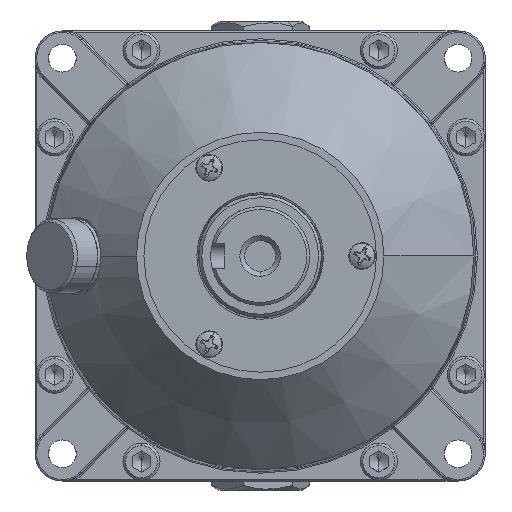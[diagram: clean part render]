
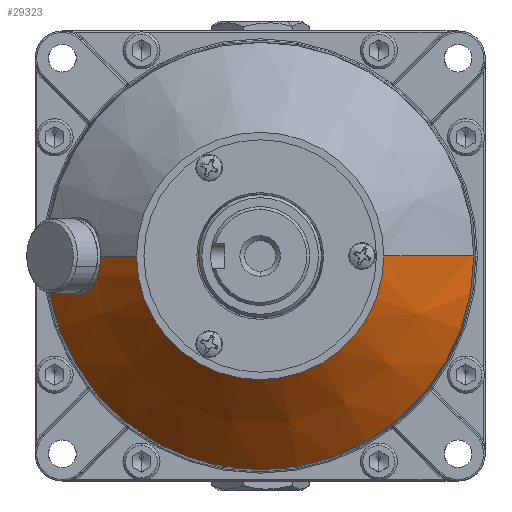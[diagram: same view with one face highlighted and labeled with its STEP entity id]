
A CAD part, left-side view. The second image highlights one B-rep face of the part: STEP entity #29323.
In plain terms, the highlighted conical face has half-angle 42.923 degrees and reference radius 55.372 mm.
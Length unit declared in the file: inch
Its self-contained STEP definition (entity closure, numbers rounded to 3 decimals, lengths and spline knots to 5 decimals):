
#23 = CARTESIAN_POINT ( 'NONE',  ( -1.94612, 1.67428, -0.26666 ) ) ;
#558 = CARTESIAN_POINT ( 'NONE',  ( -1.96636, 1.65966, -0.23742 ) ) ;
#800 = CARTESIAN_POINT ( 'NONE',  ( -2.0167, 1.62503, -0.12562 ) ) ;
#1113 = CARTESIAN_POINT ( 'NONE',  ( -1.425, -2.18, 0. ) ) ;
#1382 = B_SPLINE_CURVE_WITH_KNOTS ( 'NONE', 3,
 ( #26083, #22543, #41686, #3864, #37869, #19206, #30729, #15372, #49380, #30975, #11514, #34072, #3107, #49649, #41936, #18712, #34318, #49885, #14836, #19459, #12041, #19701, #12797, #15849, #7960, #28123, #31970, #4355, #27867, #47830, #28384, #43471, #20245, #35847, #43973, #31475, #16125, #23, #35317, #558, #47559, #24042, #31738, #35073, #800, #35582, #47056, #47316, #23545, #43727, #27622 ),
 .UNSPECIFIED., .F., .F.,
 ( 4, 2, 2, 2, 2, 2, 2, 2, 2, 2, 2, 2, 2, 2, 2, 2, 2, 2, 2, 2, 1, 2, 2, 2, 2, 4 ),
 ( 0.04187, 0.04284, 0.04381, 0.04574, 0.04671, 0.04768, 0.04962, 0.05059, 0.05156, 0.05252, 0.05349, 0.05543, 0.05737, 0.05931, 0.06027, 0.06124, 0.06221, 0.06318, 0.06512, 0.06609, 0.06706, 0.06802, 0.06899, 0.07093, 0.0719, 0.07287 ),
 .UNSPECIFIED. ) ;
#1384 = CARTESIAN_POINT ( 'NONE',  ( -1.44748, 0., 0. ) ) ;
#2979 = CARTESIAN_POINT ( 'NONE',  ( -1.425, 2.18, 0. ) ) ;
#3107 = CARTESIAN_POINT ( 'NONE',  ( -1.52487, 2.07126, -0.2576 ) ) ;
#3864 = CARTESIAN_POINT ( 'NONE',  ( -1.46445, 2.14275, -0.051 ) ) ;
#4355 = CARTESIAN_POINT ( 'NONE',  ( -1.79296, 1.79807, -0.38006 ) ) ;
#4439 = LINE ( 'NONE', #1113, #23140 ) ;
#4671 = EDGE_CURVE ( 'NONE', #37587, #7919, #23438, .T. ) ;
#4715 = CIRCLE ( 'NONE', #29199, 1.25 ) ;
#6258 = CARTESIAN_POINT ( 'NONE',  ( -1.46243, 2.14519, 0. ) ) ;
#7853 = DIRECTION ( 'NONE',  ( 0.732, 0.681, 0. ) ) ;
#7919 = VERTEX_POINT ( 'NONE', #9190 ) ;
#7944 = EDGE_CURVE ( 'NONE', #14242, #21567, #4715, .T. ) ;
#7960 = CARTESIAN_POINT ( 'NONE',  ( -1.70929, 1.87549, -0.39 ) ) ;
#8025 = DIRECTION ( 'NONE',  ( 0.732, -0.681, 0. ) ) ;
#8945 = DIRECTION ( 'NONE',  ( 0., 1., 0. ) ) ;
#9190 = CARTESIAN_POINT ( 'NONE',  ( -1.44748, 2.1591, 0. ) ) ;
#9550 = CARTESIAN_POINT ( 'NONE',  ( -2.03361, 1.614, 0. ) ) ;
#11514 = CARTESIAN_POINT ( 'NONE',  ( -1.50044, 2.09976, -0.20627 ) ) ;
#12041 = CARTESIAN_POINT ( 'NONE',  ( -1.61417, 1.97232, -0.35537 ) ) ;
#12562 = ORIENTED_EDGE ( 'NONE', *, *, #20285, .F. ) ;
#12797 = CARTESIAN_POINT ( 'NONE',  ( -1.65555, 1.92903, -0.37745 ) ) ;
#14242 = VERTEX_POINT ( 'NONE', #31508 ) ;
#14836 = CARTESIAN_POINT ( 'NONE',  ( -1.59084, 1.99742, -0.33779 ) ) ;
#15276 = ORIENTED_EDGE ( 'NONE', *, *, #41429, .F. ) ;
#15372 = CARTESIAN_POINT ( 'NONE',  ( -1.48473, 2.11837, -0.16107 ) ) ;
#15849 = CARTESIAN_POINT ( 'NONE',  ( -1.6908, 1.8936, -0.38743 ) ) ;
#16125 = CARTESIAN_POINT ( 'NONE',  ( -1.92414, 1.69053, -0.29383 ) ) ;
#16849 = VECTOR ( 'NONE', #7853, 39.37008 ) ;
#17441 = VECTOR ( 'NONE', #22674, 39.37008 ) ;
#18712 = CARTESIAN_POINT ( 'NONE',  ( -1.56239, 2.02876, -0.30959 ) ) ;
#19206 = CARTESIAN_POINT ( 'NONE',  ( -1.47049, 2.13543, -0.10139 ) ) ;
#19459 = CARTESIAN_POINT ( 'NONE',  ( -1.60618, 1.98086, -0.34984 ) ) ;
#19684 = EDGE_CURVE ( 'NONE', #49937, #7919, #46175, .T. ) ;
#19701 = CARTESIAN_POINT ( 'NONE',  ( -1.63861, 1.94651, -0.37008 ) ) ;
#19766 = ORIENTED_EDGE ( 'NONE', *, *, #22251, .T. ) ;
#19912 = CONICAL_SURFACE ( 'NONE', #40430, 2.18, 0.749 ) ;
#20245 = CARTESIAN_POINT ( 'NONE',  ( -1.8573, 1.74322, -0.34982 ) ) ;
#20285 = EDGE_CURVE ( 'NONE', #14242, #37587, #4439, .T. ) ;
#20982 = CARTESIAN_POINT ( 'NONE',  ( -2.425, 0., 0. ) ) ;
#21567 = VERTEX_POINT ( 'NONE', #24253 ) ;
#22251 = EDGE_CURVE ( 'NONE', #21567, #31503, #36373, .T. ) ;
#22543 = CARTESIAN_POINT ( 'NONE',  ( -1.46243, 2.14519, -0.01272 ) ) ;
#22674 = DIRECTION ( 'NONE',  ( 0.732, 0.681, 0. ) ) ;
#23140 = VECTOR ( 'NONE', #8025, 39.37008 ) ;
#23438 = CIRCLE ( 'NONE', #27526, 2.1591 ) ;
#23545 = CARTESIAN_POINT ( 'NONE',  ( -2.03307, 1.61434, -0.02562 ) ) ;
#24042 = CARTESIAN_POINT ( 'NONE',  ( -1.98966, 1.64334, -0.19526 ) ) ;
#24253 = CARTESIAN_POINT ( 'NONE',  ( -2.425, 1.25, 0. ) ) ;
#24768 = DIRECTION ( 'NONE',  ( 1., 0., 0. ) ) ;
#24858 = ORIENTED_EDGE ( 'NONE', *, *, #19684, .T. ) ;
#26083 = CARTESIAN_POINT ( 'NONE',  ( -1.46243, 2.14519, 0. ) ) ;
#26486 = FACE_OUTER_BOUND ( 'NONE', #34283, .T. ) ;
#27268 = CARTESIAN_POINT ( 'NONE',  ( -1.425, 0., 0. ) ) ;
#27526 = AXIS2_PLACEMENT_3D ( 'NONE', #1384, #32816, #36422 ) ;
#27622 = CARTESIAN_POINT ( 'NONE',  ( -2.03361, 1.614, 0. ) ) ;
#27867 = CARTESIAN_POINT ( 'NONE',  ( -1.80239, 1.78977, -0.37692 ) ) ;
#28123 = CARTESIAN_POINT ( 'NONE',  ( -1.74626, 1.84036, -0.39 ) ) ;
#28203 = ORIENTED_EDGE ( 'NONE', *, *, #7944, .T. ) ;
#28384 = CARTESIAN_POINT ( 'NONE',  ( -1.83014, 1.76586, -0.36515 ) ) ;
#28785 = DIRECTION ( 'NONE',  ( 0., 1., 0. ) ) ;
#29199 = AXIS2_PLACEMENT_3D ( 'NONE', #20982, #24768, #8945 ) ;
#29323 = ADVANCED_FACE ( 'NONE', ( #26486 ), #19912, .T. ) ;
#30729 = CARTESIAN_POINT ( 'NONE',  ( -1.47525, 2.12969, -0.12571 ) ) ;
#30975 = CARTESIAN_POINT ( 'NONE',  ( -1.49617, 2.1048, -0.19535 ) ) ;
#31475 = CARTESIAN_POINT ( 'NONE',  ( -1.90844, 1.70246, -0.30992 ) ) ;
#31503 = VERTEX_POINT ( 'NONE', #9550 ) ;
#31508 = CARTESIAN_POINT ( 'NONE',  ( -2.425, -1.25, 0. ) ) ;
#31738 = CARTESIAN_POINT ( 'NONE',  ( -1.9997, 1.63647, -0.17279 ) ) ;
#31970 = CARTESIAN_POINT ( 'NONE',  ( -1.76486, 1.8232, -0.38753 ) ) ;
#32309 = ORIENTED_EDGE ( 'NONE', *, *, #4671, .F. ) ;
#32816 = DIRECTION ( 'NONE',  ( 1., 0., 0. ) ) ;
#34072 = CARTESIAN_POINT ( 'NONE',  ( -1.51429, 2.08353, -0.23795 ) ) ;
#34283 = EDGE_LOOP ( 'NONE', ( #12562, #28203, #19766, #15276, #24858, #32309 ) ) ;
#34318 = CARTESIAN_POINT ( 'NONE',  ( -1.56923, 2.02115, -0.31715 ) ) ;
#35073 = CARTESIAN_POINT ( 'NONE',  ( -2.00433, 1.63334, -0.16113 ) ) ;
#35317 = CARTESIAN_POINT ( 'NONE',  ( -1.95315, 1.66916, -0.25711 ) ) ;
#35582 = CARTESIAN_POINT ( 'NONE',  ( -2.02295, 1.62093, -0.1013 ) ) ;
#35759 = DIRECTION ( 'NONE',  ( 1., 0., 0. ) ) ;
#35847 = CARTESIAN_POINT ( 'NONE',  ( -1.8749, 1.72892, -0.33769 ) ) ;
#36373 = LINE ( 'NONE', #48117, #16849 ) ;
#36422 = DIRECTION ( 'NONE',  ( 0., 1., 0. ) ) ;
#37587 = VERTEX_POINT ( 'NONE', #37726 ) ;
#37726 = CARTESIAN_POINT ( 'NONE',  ( -1.44748, -2.1591, 0. ) ) ;
#37869 = CARTESIAN_POINT ( 'NONE',  ( -1.46567, 2.14126, -0.0638 ) ) ;
#40430 = AXIS2_PLACEMENT_3D ( 'NONE', #27268, #35759, #28785 ) ;
#41429 = EDGE_CURVE ( 'NONE', #49937, #31503, #1382, .T. ) ;
#41686 = CARTESIAN_POINT ( 'NONE',  ( -1.46283, 2.1447, -0.02547 ) ) ;
#41936 = CARTESIAN_POINT ( 'NONE',  ( -1.54924, 2.04352, -0.29345 ) ) ;
#43471 = CARTESIAN_POINT ( 'NONE',  ( -1.84829, 1.75064, -0.35534 ) ) ;
#43727 = CARTESIAN_POINT ( 'NONE',  ( -2.03361, 1.614, -0.01276 ) ) ;
#43973 = CARTESIAN_POINT ( 'NONE',  ( -1.88347, 1.72209, -0.33112 ) ) ;
#46175 = LINE ( 'NONE', #2979, #17441 ) ;
#47056 = CARTESIAN_POINT ( 'NONE',  ( -2.0293, 1.61679, -0.06387 ) ) ;
#47316 = CARTESIAN_POINT ( 'NONE',  ( -2.03091, 1.61574, -0.05123 ) ) ;
#47559 = CARTESIAN_POINT ( 'NONE',  ( -1.9788, 1.65085, -0.21704 ) ) ;
#47830 = CARTESIAN_POINT ( 'NONE',  ( -1.82096, 1.77369, -0.36947 ) ) ;
#48117 = CARTESIAN_POINT ( 'NONE',  ( -1.425, 2.18, 0. ) ) ;
#49380 = CARTESIAN_POINT ( 'NONE',  ( -1.4883, 2.11412, -0.17273 ) ) ;
#49649 = CARTESIAN_POINT ( 'NONE',  ( -1.5429, 2.05069, -0.28482 ) ) ;
#49885 = CARTESIAN_POINT ( 'NONE',  ( -1.58346, 2.00548, -0.33125 ) ) ;
#49937 = VERTEX_POINT ( 'NONE', #6258 ) ;
